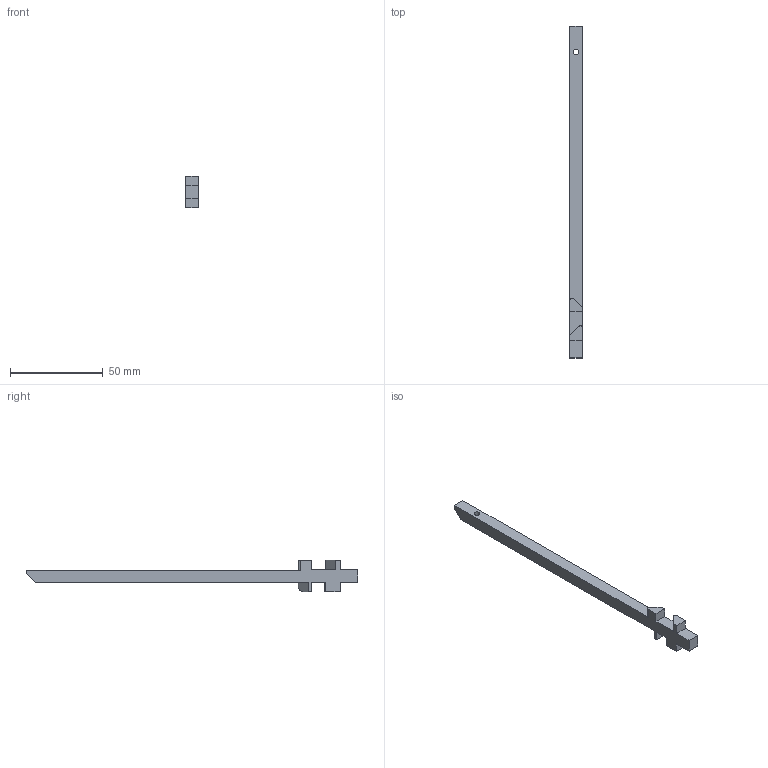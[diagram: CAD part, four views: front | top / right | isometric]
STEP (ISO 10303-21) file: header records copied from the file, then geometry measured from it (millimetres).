
FILE_DESCRIPTION(('HOOPS Exchange Step'),'2;1');
FILE_NAME('/private/var/mobile/Containers/Data/Application/4F40B09C-B543-4287-94D3-5CCF782DB2F4/tmp/export/temp_export','2026-06-06T08:47:44-05:00',('mobile'),('Shapr3D Limited'),'HOOPS Exchange 2026.3','Shapr3D','Authorized');
FILE_SCHEMA( ('AP242_MANAGED_MODEL_BASED_3D_ENGINEERING_MIM_LF {1 0 10303 442 1 1 4}') );
Length unit declared in the file: millimetre
Products named in the file (4): Rod; Mag Catch Mech.; Done; root
Assembly tree (3 placements, depth 4):
  root
    Done
      Mag Catch Mech.
        Rod
Bounding box: 6.6 x 179 x 17.2 mm (x, y, z)
Volume: 8571.8 mm3; surface area: 5380.8 mm2
Topology: 1 solids, 1 shells, 30 faces, 85 edges, 57 vertices
Faces by surface type: plane 23, cylinder 7
Full cylindrical faces by diameter (mm): 3.1 x1
Entity records: 1114 total; most frequent: CARTESIAN_POINT 210, DIRECTION 174, ORIENTED_EDGE 170, EDGE_CURVE 85, VECTOR 70, LINE 70, VERTEX_POINT 57, AXIS2_PLACEMENT_3D 52
